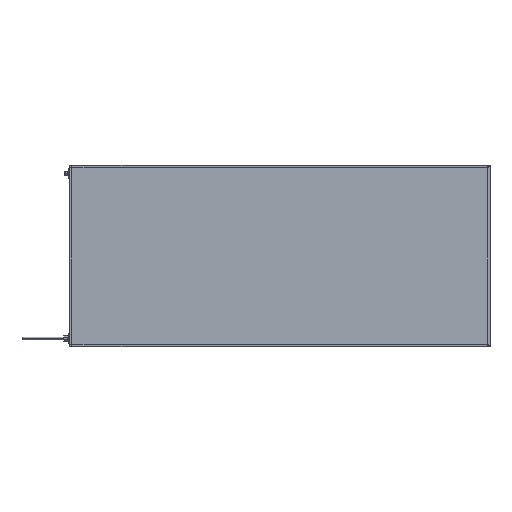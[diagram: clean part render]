
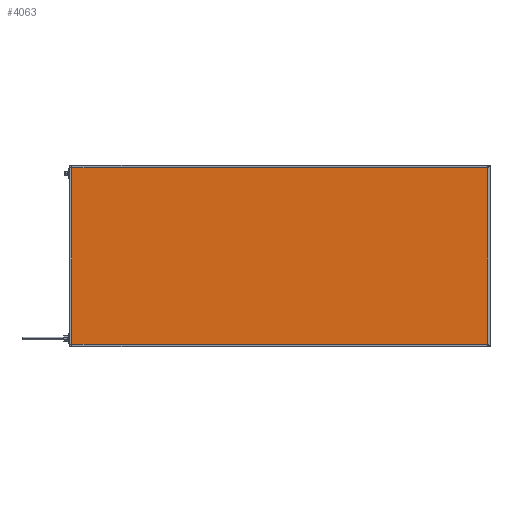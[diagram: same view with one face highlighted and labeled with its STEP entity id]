
A CAD part, top view. The second image highlights one B-rep face of the part: STEP entity #4063.
In plain terms, the highlighted planar face has unit normal (0, 0, 1).
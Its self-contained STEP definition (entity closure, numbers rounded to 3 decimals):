
#218 = EDGE_LOOP ( 'NONE', ( #8188, #3504, #12993, #8237 ) ) ;
#305 = VECTOR ( 'NONE', #6216, 1000. ) ;
#381 = PLANE ( 'NONE',  #12729 ) ;
#866 = VERTEX_POINT ( 'NONE', #12513 ) ;
#1981 = VERTEX_POINT ( 'NONE', #13496 ) ;
#2011 = CARTESIAN_POINT ( 'NONE',  ( 0., 0., 41.85 ) ) ;
#2474 = LINE ( 'NONE', #10520, #7619 ) ;
#2701 = CARTESIAN_POINT ( 'NONE',  ( 4., 0., 41.85 ) ) ;
#3092 = EDGE_CURVE ( 'NONE', #1981, #866, #13030, .T. ) ;
#3504 = ORIENTED_EDGE ( 'NONE', *, *, #3092, .T. ) ;
#3536 = CARTESIAN_POINT ( 'NONE',  ( 0., 596., 41.85 ) ) ;
#4063 = ADVANCED_FACE ( 'NONE', ( #9124 ), #381, .F. ) ;
#5915 = CARTESIAN_POINT ( 'NONE',  ( 1396., 4., 41.85 ) ) ;
#6216 = DIRECTION ( 'NONE',  ( 1., 0., 0. ) ) ;
#7572 = DIRECTION ( 'NONE',  ( 0., 0., -1. ) ) ;
#7585 = CARTESIAN_POINT ( 'NONE',  ( 0., 4., 41.85 ) ) ;
#7619 = VECTOR ( 'NONE', #11977, 1000. ) ;
#8188 = ORIENTED_EDGE ( 'NONE', *, *, #17228, .T. ) ;
#8237 = ORIENTED_EDGE ( 'NONE', *, *, #12632, .T. ) ;
#8782 = LINE ( 'NONE', #7585, #305 ) ;
#9124 = FACE_OUTER_BOUND ( 'NONE', #218, .T. ) ;
#10365 = VECTOR ( 'NONE', #11574, 1000. ) ;
#10520 = CARTESIAN_POINT ( 'NONE',  ( 1396., 0., 41.85 ) ) ;
#11574 = DIRECTION ( 'NONE',  ( -1., 0., 0. ) ) ;
#11977 = DIRECTION ( 'NONE',  ( 0., 1., 0. ) ) ;
#12124 = CARTESIAN_POINT ( 'NONE',  ( 4., 4., 41.85 ) ) ;
#12513 = CARTESIAN_POINT ( 'NONE',  ( 4., 596., 41.85 ) ) ;
#12632 = EDGE_CURVE ( 'NONE', #16607, #14902, #8782, .T. ) ;
#12729 = AXIS2_PLACEMENT_3D ( 'NONE', #2011, #7572, #13047 ) ;
#12993 = ORIENTED_EDGE ( 'NONE', *, *, #15195, .T. ) ;
#13030 = LINE ( 'NONE', #3536, #10365 ) ;
#13047 = DIRECTION ( 'NONE',  ( -1., 0., 0. ) ) ;
#13496 = CARTESIAN_POINT ( 'NONE',  ( 1396., 596., 41.85 ) ) ;
#14020 = LINE ( 'NONE', #2701, #15786 ) ;
#14902 = VERTEX_POINT ( 'NONE', #5915 ) ;
#15195 = EDGE_CURVE ( 'NONE', #866, #16607, #14020, .T. ) ;
#15786 = VECTOR ( 'NONE', #18035, 1000. ) ;
#16607 = VERTEX_POINT ( 'NONE', #12124 ) ;
#17228 = EDGE_CURVE ( 'NONE', #14902, #1981, #2474, .T. ) ;
#18035 = DIRECTION ( 'NONE',  ( 0., -1., 0. ) ) ;
